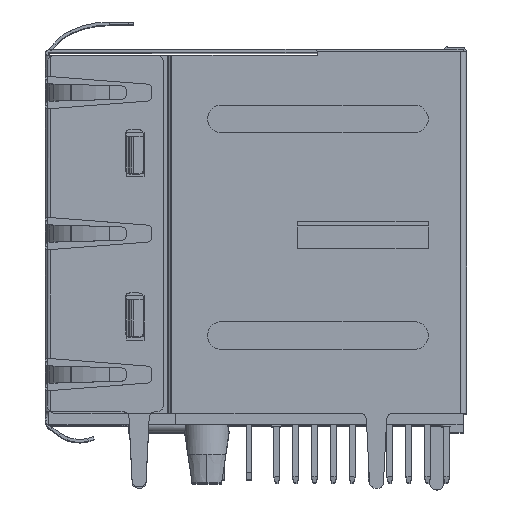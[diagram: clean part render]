
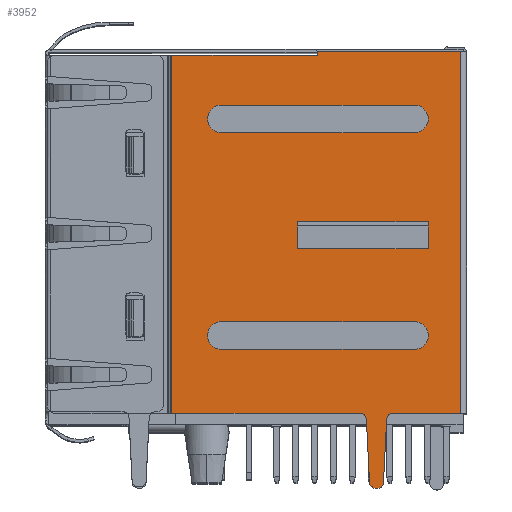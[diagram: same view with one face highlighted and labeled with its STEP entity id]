
A CAD part, top view. The second image highlights one B-rep face of the part: STEP entity #3952.
In plain terms, the highlighted planar face has unit normal (0, 0, 1).
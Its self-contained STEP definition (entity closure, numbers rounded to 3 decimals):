
#37=DIRECTION('',(-1.,0.,0.));
#38=VECTOR('',#37,13.);
#39=CARTESIAN_POINT('',(-3.53,6.71,29.59));
#40=LINE('',#39,#38);
#41=CARTESIAN_POINT('',(-4.999,-12.595,29.59));
#42=DIRECTION('',(0.,0.,1.));
#43=DIRECTION('',(0.,1.,0.));
#44=AXIS2_PLACEMENT_3D('',#41,#42,#43);
#46=DIRECTION('',(-0.049,-0.999,0.));
#47=VECTOR('',#46,4.257);
#48=CARTESIAN_POINT('',(-5.399,-12.575,29.59));
#49=LINE('',#48,#47);
#50=CARTESIAN_POINT('',(-6.058,-16.805,29.59));
#51=DIRECTION('',(0.,0.,-1.));
#52=DIRECTION('',(0.999,-0.049,0.));
#53=AXIS2_PLACEMENT_3D('',#50,#51,#52);
#55=CARTESIAN_POINT('',(-6.102,-16.805,29.59));
#56=DIRECTION('',(0.,0.,-1.));
#57=DIRECTION('',(0.,-1.,0.));
#58=AXIS2_PLACEMENT_3D('',#55,#56,#57);
#60=DIRECTION('',(-0.049,0.999,0.));
#61=VECTOR('',#60,4.257);
#62=CARTESIAN_POINT('',(-6.551,-16.827,29.59));
#63=LINE('',#62,#61);
#64=CARTESIAN_POINT('',(-7.161,-12.595,29.59));
#65=DIRECTION('',(0.,0.,1.));
#66=DIRECTION('',(0.999,0.049,0.));
#67=AXIS2_PLACEMENT_3D('',#64,#65,#66);
#69=CARTESIAN_POINT('',(-16.53,-6.955,29.59));
#70=DIRECTION('',(0.,0.,1.));
#71=DIRECTION('',(0.,1.,0.));
#72=AXIS2_PLACEMENT_3D('',#69,#70,#71);
#74=CARTESIAN_POINT('',(-16.53,-6.955,29.59));
#75=DIRECTION('',(0.,0.,1.));
#76=DIRECTION('',(-1.,0.,0.));
#77=AXIS2_PLACEMENT_3D('',#74,#75,#76);
#79=CARTESIAN_POINT('',(-3.53,-6.955,29.59));
#80=DIRECTION('',(0.,0.,1.));
#81=DIRECTION('',(0.,-1.,0.));
#82=AXIS2_PLACEMENT_3D('',#79,#80,#81);
#84=CARTESIAN_POINT('',(-3.53,-6.955,29.59));
#85=DIRECTION('',(0.,0.,1.));
#86=DIRECTION('',(1.,0.,0.));
#87=AXIS2_PLACEMENT_3D('',#84,#85,#86);
#89=CARTESIAN_POINT('',(-16.53,7.645,29.59));
#90=DIRECTION('',(0.,0.,1.));
#91=DIRECTION('',(0.,1.,0.));
#92=AXIS2_PLACEMENT_3D('',#89,#90,#91);
#94=CARTESIAN_POINT('',(-16.53,7.645,29.59));
#95=DIRECTION('',(0.,0.,1.));
#96=DIRECTION('',(-1.,0.,0.));
#97=AXIS2_PLACEMENT_3D('',#94,#95,#96);
#99=CARTESIAN_POINT('',(-3.53,7.645,29.59));
#100=DIRECTION('',(0.,0.,1.));
#101=DIRECTION('',(0.,-1.,0.));
#102=AXIS2_PLACEMENT_3D('',#99,#100,#101);
#104=CARTESIAN_POINT('',(-3.53,7.645,29.59));
#105=DIRECTION('',(0.,0.,1.));
#106=DIRECTION('',(1.,0.,0.));
#107=AXIS2_PLACEMENT_3D('',#104,#105,#106);
#122=DIRECTION('',(1.,0.,0.));
#123=VECTOR('',#122,4.599);
#124=CARTESIAN_POINT('',(-4.999,-12.195,29.59));
#125=LINE('',#124,#123);
#148=DIRECTION('',(-1.,0.,0.));
#149=VECTOR('',#148,9.65);
#150=CARTESIAN_POINT('',(-0.4,12.195,29.59));
#151=LINE('',#150,#149);
#2193=DIRECTION('',(0.,1.,0.));
#2194=VECTOR('',#2193,24.39);
#2195=CARTESIAN_POINT('',(-0.4,-12.195,29.59));
#2196=LINE('',#2195,#2194);
#2205=DIRECTION('',(0.,-1.,0.));
#2206=VECTOR('',#2205,0.25);
#2207=CARTESIAN_POINT('',(-10.05,12.195,29.59));
#2208=LINE('',#2207,#2206);
#2239=DIRECTION('',(-1.,0.,0.));
#2240=VECTOR('',#2239,9.826);
#2241=CARTESIAN_POINT('',(-10.05,11.945,29.59));
#2242=LINE('',#2241,#2240);
#2291=DIRECTION('',(1.,0.,0.));
#2292=VECTOR('',#2291,12.715);
#2293=CARTESIAN_POINT('',(-19.876,-12.195,29.59));
#2294=LINE('',#2293,#2292);
#2773=DIRECTION('',(1.,0.,0.));
#2774=VECTOR('',#2773,0.043);
#2775=CARTESIAN_POINT('',(-6.102,-17.255,29.59));
#2776=LINE('',#2775,#2774);
#2789=DIRECTION('',(0.,-1.,0.));
#2790=VECTOR('',#2789,24.14);
#2791=CARTESIAN_POINT('',(-19.876,11.945,29.59));
#2792=LINE('',#2791,#2790);
#2801=DIRECTION('',(1.,0.,0.));
#2802=VECTOR('',#2801,8.8);
#2803=CARTESIAN_POINT('',(-11.4,0.71,29.59));
#2804=LINE('',#2803,#2802);
#2809=DIRECTION('',(-1.,0.,0.));
#2810=VECTOR('',#2809,8.8);
#2811=CARTESIAN_POINT('',(-2.6,-1.09,29.59));
#2812=LINE('',#2811,#2810);
#2821=DIRECTION('',(0.,-1.,0.));
#2822=VECTOR('',#2821,1.8);
#2823=CARTESIAN_POINT('',(-2.6,0.71,29.59));
#2824=LINE('',#2823,#2822);
#2837=DIRECTION('',(0.,1.,0.));
#2838=VECTOR('',#2837,1.8);
#2839=CARTESIAN_POINT('',(-11.4,-1.09,29.59));
#2840=LINE('',#2839,#2838);
#2845=DIRECTION('',(1.,0.,0.));
#2846=VECTOR('',#2845,13.);
#2847=CARTESIAN_POINT('',(-16.53,-6.02,29.59));
#2848=LINE('',#2847,#2846);
#2881=DIRECTION('',(-1.,0.,0.));
#2882=VECTOR('',#2881,13.);
#2883=CARTESIAN_POINT('',(-3.53,-7.89,29.59));
#2884=LINE('',#2883,#2882);
#2901=DIRECTION('',(1.,0.,0.));
#2902=VECTOR('',#2901,13.);
#2903=CARTESIAN_POINT('',(-16.53,8.58,29.59));
#2904=LINE('',#2903,#2902);
#2917=CARTESIAN_POINT('',(-16.53,6.71,29.59));
#2918=VERTEX_POINT('',#2917);
#2919=CARTESIAN_POINT('',(-17.465,7.645,29.59));
#2920=VERTEX_POINT('',#2919);
#2929=CARTESIAN_POINT('',(-3.53,6.71,29.59));
#2930=VERTEX_POINT('',#2929);
#2931=CARTESIAN_POINT('',(-3.53,8.58,29.59));
#2932=VERTEX_POINT('',#2931);
#2933=CARTESIAN_POINT('',(-2.595,7.645,29.59));
#2934=VERTEX_POINT('',#2933);
#2935=CARTESIAN_POINT('',(-4.999,-12.195,29.59));
#2936=CARTESIAN_POINT('',(-5.399,-12.575,29.59));
#2937=VERTEX_POINT('',#2935);
#2938=VERTEX_POINT('',#2936);
#2939=CARTESIAN_POINT('',(-5.609,-16.827,29.59));
#2940=VERTEX_POINT('',#2939);
#2941=CARTESIAN_POINT('',(-6.058,-17.255,29.59));
#2942=VERTEX_POINT('',#2941);
#2943=CARTESIAN_POINT('',(-6.102,-17.255,29.59));
#2944=VERTEX_POINT('',#2943);
#2945=CARTESIAN_POINT('',(-6.551,-16.827,29.59));
#2946=VERTEX_POINT('',#2945);
#2947=CARTESIAN_POINT('',(-6.761,-12.575,29.59));
#2948=VERTEX_POINT('',#2947);
#2949=CARTESIAN_POINT('',(-7.161,-12.195,29.59));
#2950=VERTEX_POINT('',#2949);
#2951=CARTESIAN_POINT('',(-19.876,-12.195,29.59));
#2952=VERTEX_POINT('',#2951);
#2953=CARTESIAN_POINT('',(-19.876,11.945,29.59));
#2954=VERTEX_POINT('',#2953);
#2955=CARTESIAN_POINT('',(-10.05,11.945,29.59));
#2956=VERTEX_POINT('',#2955);
#2957=CARTESIAN_POINT('',(-10.05,12.195,29.59));
#2958=VERTEX_POINT('',#2957);
#2959=CARTESIAN_POINT('',(-0.4,12.195,29.59));
#2960=VERTEX_POINT('',#2959);
#2961=CARTESIAN_POINT('',(-0.4,-12.195,29.59));
#2962=VERTEX_POINT('',#2961);
#2963=CARTESIAN_POINT('',(-11.4,0.71,29.59));
#2964=CARTESIAN_POINT('',(-2.6,0.71,29.59));
#2965=VERTEX_POINT('',#2963);
#2966=VERTEX_POINT('',#2964);
#2967=CARTESIAN_POINT('',(-11.4,-1.09,29.59));
#2968=VERTEX_POINT('',#2967);
#2969=CARTESIAN_POINT('',(-2.6,-1.09,29.59));
#2970=VERTEX_POINT('',#2969);
#2971=CARTESIAN_POINT('',(-16.53,-6.02,29.59));
#2972=CARTESIAN_POINT('',(-3.53,-6.02,29.59));
#2973=VERTEX_POINT('',#2971);
#2974=VERTEX_POINT('',#2972);
#2975=CARTESIAN_POINT('',(-17.465,-6.955,29.59));
#2976=VERTEX_POINT('',#2975);
#2977=CARTESIAN_POINT('',(-16.53,-7.89,29.59));
#2978=VERTEX_POINT('',#2977);
#2979=CARTESIAN_POINT('',(-3.53,-7.89,29.59));
#2980=VERTEX_POINT('',#2979);
#2981=CARTESIAN_POINT('',(-2.595,-6.955,29.59));
#2982=VERTEX_POINT('',#2981);
#2983=CARTESIAN_POINT('',(-16.53,8.58,29.59));
#2984=VERTEX_POINT('',#2983);
#3883=CARTESIAN_POINT('',(-19.876,-17.255,29.59));
#3884=DIRECTION('',(0.,0.,1.));
#3885=DIRECTION('',(1.,0.,0.));
#3886=AXIS2_PLACEMENT_3D('',#3883,#3884,#3885);
#3887=PLANE('',#3886);
#3889=ORIENTED_EDGE('',*,*,#3888,.T.);
#3891=ORIENTED_EDGE('',*,*,#3890,.T.);
#3893=ORIENTED_EDGE('',*,*,#3892,.T.);
#3895=ORIENTED_EDGE('',*,*,#3894,.F.);
#3897=ORIENTED_EDGE('',*,*,#3896,.T.);
#3899=ORIENTED_EDGE('',*,*,#3898,.T.);
#3901=ORIENTED_EDGE('',*,*,#3900,.T.);
#3903=ORIENTED_EDGE('',*,*,#3902,.F.);
#3905=ORIENTED_EDGE('',*,*,#3904,.F.);
#3907=ORIENTED_EDGE('',*,*,#3906,.F.);
#3909=ORIENTED_EDGE('',*,*,#3908,.F.);
#3911=ORIENTED_EDGE('',*,*,#3910,.F.);
#3913=ORIENTED_EDGE('',*,*,#3912,.F.);
#3915=ORIENTED_EDGE('',*,*,#3914,.F.);
#3916=EDGE_LOOP('',(#3889,#3891,#3893,#3895,#3897,#3899,#3901,#3903,#3905,#3907,
#3909,#3911,#3913,#3915));
#3917=FACE_OUTER_BOUND('',#3916,.F.);
#3919=ORIENTED_EDGE('',*,*,#3918,.F.);
#3921=ORIENTED_EDGE('',*,*,#3920,.F.);
#3923=ORIENTED_EDGE('',*,*,#3922,.F.);
#3925=ORIENTED_EDGE('',*,*,#3924,.F.);
#3926=EDGE_LOOP('',(#3919,#3921,#3923,#3925));
#3927=FACE_BOUND('',#3926,.F.);
#3929=ORIENTED_EDGE('',*,*,#3928,.F.);
#3931=ORIENTED_EDGE('',*,*,#3930,.T.);
#3933=ORIENTED_EDGE('',*,*,#3932,.T.);
#3935=ORIENTED_EDGE('',*,*,#3934,.F.);
#3937=ORIENTED_EDGE('',*,*,#3936,.T.);
#3939=ORIENTED_EDGE('',*,*,#3938,.T.);
#3940=EDGE_LOOP('',(#3929,#3931,#3933,#3935,#3937,#3939));
#3941=FACE_BOUND('',#3940,.F.);
#3943=ORIENTED_EDGE('',*,*,#3942,.F.);
#3945=ORIENTED_EDGE('',*,*,#3944,.T.);
#3946=ORIENTED_EDGE('',*,*,#3826,.T.);
#3947=ORIENTED_EDGE('',*,*,#3877,.F.);
#3948=ORIENTED_EDGE('',*,*,#3865,.T.);
#3949=ORIENTED_EDGE('',*,*,#3863,.T.);
#3950=EDGE_LOOP('',(#3943,#3945,#3946,#3947,#3948,#3949));
#3951=FACE_BOUND('',#3950,.F.);
#3952=ADVANCED_FACE('',(#3917,#3927,#3941,#3951),#3887,.T.);
#45=CIRCLE('',#44,0.4);
#54=CIRCLE('',#53,0.45);
#59=CIRCLE('',#58,0.45);
#68=CIRCLE('',#67,0.4);
#73=CIRCLE('',#72,0.935);
#78=CIRCLE('',#77,0.935);
#83=CIRCLE('',#82,0.935);
#88=CIRCLE('',#87,0.935);
#93=CIRCLE('',#92,0.935);
#98=CIRCLE('',#97,0.935);
#103=CIRCLE('',#102,0.935);
#108=CIRCLE('',#107,0.935);
#3826=EDGE_CURVE('',#2920,#2918,#98,.T.);
#3863=EDGE_CURVE('',#2934,#2932,#108,.T.);
#3865=EDGE_CURVE('',#2930,#2934,#103,.T.);
#3877=EDGE_CURVE('',#2930,#2918,#40,.T.);
#3888=EDGE_CURVE('',#2937,#2938,#45,.T.);
#3890=EDGE_CURVE('',#2938,#2940,#49,.T.);
#3892=EDGE_CURVE('',#2940,#2942,#54,.T.);
#3894=EDGE_CURVE('',#2944,#2942,#2776,.T.);
#3896=EDGE_CURVE('',#2944,#2946,#59,.T.);
#3898=EDGE_CURVE('',#2946,#2948,#63,.T.);
#3900=EDGE_CURVE('',#2948,#2950,#68,.T.);
#3902=EDGE_CURVE('',#2952,#2950,#2294,.T.);
#3904=EDGE_CURVE('',#2954,#2952,#2792,.T.);
#3906=EDGE_CURVE('',#2956,#2954,#2242,.T.);
#3908=EDGE_CURVE('',#2958,#2956,#2208,.T.);
#3910=EDGE_CURVE('',#2960,#2958,#151,.T.);
#3912=EDGE_CURVE('',#2962,#2960,#2196,.T.);
#3914=EDGE_CURVE('',#2937,#2962,#125,.T.);
#3918=EDGE_CURVE('',#2965,#2966,#2804,.T.);
#3920=EDGE_CURVE('',#2968,#2965,#2840,.T.);
#3922=EDGE_CURVE('',#2970,#2968,#2812,.T.);
#3924=EDGE_CURVE('',#2966,#2970,#2824,.T.);
#3928=EDGE_CURVE('',#2973,#2974,#2848,.T.);
#3930=EDGE_CURVE('',#2973,#2976,#73,.T.);
#3932=EDGE_CURVE('',#2976,#2978,#78,.T.);
#3934=EDGE_CURVE('',#2980,#2978,#2884,.T.);
#3936=EDGE_CURVE('',#2980,#2982,#83,.T.);
#3938=EDGE_CURVE('',#2982,#2974,#88,.T.);
#3942=EDGE_CURVE('',#2984,#2932,#2904,.T.);
#3944=EDGE_CURVE('',#2984,#2920,#93,.T.);
